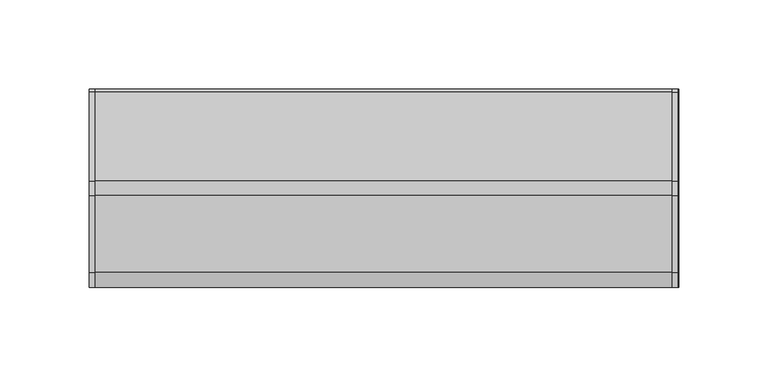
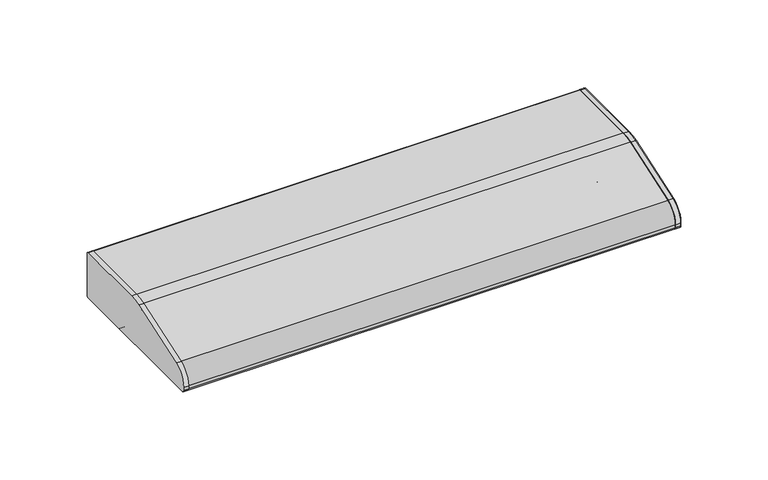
"""IFC4 building model written with IfcOpenShell, lengths in millimetres: light fixture geometry, HermanMiller_SupplementalProducts_G6136_UtilityTaskLight : AO Etho Canvas 24W."""

import ifcopenshell
import ifcopenshell.guid

model = None  # the IFC model being written
_history = None  # IfcOwnerHistory: only IFC2X3 demands one
_inside = {}  # id of a spatial element -> (the spatial element, [elements in it])
_under = {}  # id of a project, library or spatial element -> (it, [spatial elements below it])
_declared = {}  # id of a project -> (the project, [libraries it declares])
_typed = {}  # id of a type object -> (the type object, [elements of that type])
_made_of = {}  # id of a material, layer set ... -> (it, [elements and type objects made of it])


def new_model(schema):
    """Start an empty IFC model of exactly this schema.

    Asked for "IFC4X3", IfcOpenShell would pick the latest addendum, in which some entities
    have other attributes; the version numbers below select the first issue.
    IFC2X3 requires an IfcOwnerHistory on every rooted entity: one is made here for all.
    """
    global model, _history
    if schema == "IFC4X3":
        model = ifcopenshell.file(schema_version=(4, 3, 0, 0))
    else:
        model = ifcopenshell.file(schema=schema)
    _inside.clear()
    _under.clear()
    _declared.clear()
    _typed.clear()
    _made_of.clear()
    _history = None
    if model.schema == "IFC2X3":
        org = make("IfcOrganization", Name="unknown")
        user = make(
            "IfcPersonAndOrganization",
            ThePerson=make("IfcPerson", FamilyName="unknown"),
            TheOrganization=org,
        )
        app = make(
            "IfcApplication",
            ApplicationDeveloper=org,
            Version="unknown",
            ApplicationFullName="unknown",
            ApplicationIdentifier="unknown",
        )
        _history = make(
            "IfcOwnerHistory",
            OwningUser=user,
            OwningApplication=app,
            ChangeAction="ADDED",
            CreationDate=0,
        )
    return model


def make(cls, **values):
    """One entity of the class cls with the attributes given. An attribute that is None is left unset."""
    return model.create_entity(
        cls, **{name: value for name, value in values.items() if value is not None}
    )


def rooted(cls, **values):
    """An entity with a GlobalId (a new one), such as an element, a storey or a relation."""
    return make(cls, GlobalId=ifcopenshell.guid.new(), OwnerHistory=_history, **values)


def si_unit(unit_type, name, prefix=None):
    """IfcSIUnit, for example si_unit("LENGTHUNIT", "METRE", prefix="MILLI")."""
    return make("IfcSIUnit", UnitType=unit_type, Prefix=prefix, Name=name)


def assignment(units):
    """IfcUnitAssignment: the units of a project."""
    return None if units is None else make("IfcUnitAssignment", Units=units)


def point(xyz):
    """IfcCartesianPoint."""
    return None if xyz is None else make("IfcCartesianPoint", Coordinates=xyz)


def direction(xyz):
    """IfcDirection."""
    return None if xyz is None else make("IfcDirection", DirectionRatios=xyz)


def frame(location, z_axis=None, x_axis=None):
    """IfcAxis2Placement3D, a coordinate frame: its origin and axes. An axis left out is left unset."""
    return make(
        "IfcAxis2Placement3D",
        Location=point(location),
        Axis=direction(z_axis),
        RefDirection=direction(x_axis),
    )


def frame_2d(location, x_axis=None):
    """IfcAxis2Placement2D, a coordinate frame in the plane: its origin and x axis."""
    return make(
        "IfcAxis2Placement2D", Location=point(location), RefDirection=direction(x_axis)
    )


def origin():
    """The frame at (0, 0, 0) with its axes left unset."""
    return frame((0.0, 0.0, 0.0))


def place(relative_to, where):
    """IfcLocalPlacement: puts the frame where relative to a parent placement (None: the world)."""
    return make(
        "IfcLocalPlacement", PlacementRelTo=relative_to, RelativePlacement=where
    )


def context(
    kind, dimensions, precision=None, world=None, true_north=None, identifier=None
):
    """IfcGeometricRepresentationContext, for example the 3D "Model" context."""
    return make(
        "IfcGeometricRepresentationContext",
        ContextIdentifier=identifier,
        ContextType=kind,
        CoordinateSpaceDimension=dimensions,
        Precision=precision,
        WorldCoordinateSystem=world,
        TrueNorth=true_north,
    )


def project(units=None, contexts=None):
    """IfcProject with its units and contexts."""
    return rooted(
        "IfcProject",
        Name="project",
        RepresentationContexts=contexts,
        UnitsInContext=assignment(units),
    )


def spatial(cls, under=None, at=None, **own):
    """A site, building, storey or space (cls), placed at a placement, below another one or the project."""
    s = rooted(cls, ObjectPlacement=at, **own)
    if under is not None:
        _under.setdefault(under.id(), (under, []))[1].append(s)
    return s


def polyline(points):
    """IfcPolyline through the points."""
    return make("IfcPolyline", Points=[point(p) for p in points])


def circle_curve(where, radius):
    """IfcCircle in the frame where."""
    return make("IfcCircle", Position=where, Radius=radius)


def trimmed(basis, trim1, trim2, sense, master):
    """IfcTrimmedCurve: the piece of a basis curve between two trims."""
    return make(
        "IfcTrimmedCurve",
        BasisCurve=basis,
        Trim1=trim1,
        Trim2=trim2,
        SenseAgreement=sense,
        MasterRepresentation=master,
    )


def segment(curve, same_sense, transition):
    """IfcCompositeCurveSegment."""
    return make(
        "IfcCompositeCurveSegment",
        Transition=transition,
        SameSense=same_sense,
        ParentCurve=curve,
    )


def composite_curve(segments, self_intersect=None):
    """IfcCompositeCurve: segments joined end to end."""
    return make("IfcCompositeCurve", Segments=segments, SelfIntersect=self_intersect)


def outline(outer, holes=None, kind="AREA"):
    """IfcArbitraryClosedProfileDef: a profile drawn as a closed curve; with holes, ...WithVoids."""
    if holes is None:
        return make("IfcArbitraryClosedProfileDef", ProfileType=kind, OuterCurve=outer)
    return make(
        "IfcArbitraryProfileDefWithVoids",
        ProfileType=kind,
        OuterCurve=outer,
        InnerCurves=holes,
    )


def extrude(swept, where, along, depth):
    """IfcExtrudedAreaSolid: the profile swept, set in the frame where, extruded along a direction by depth."""
    return make(
        "IfcExtrudedAreaSolid",
        SweptArea=swept,
        Position=where,
        ExtrudedDirection=direction(along),
        Depth=depth,
    )


def shape(context_of_items, identifier, shape_type, items):
    """IfcShapeRepresentation: the items that make up one representation, for example the "Body"."""
    return make(
        "IfcShapeRepresentation",
        ContextOfItems=context_of_items,
        RepresentationIdentifier=identifier,
        RepresentationType=shape_type,
        Items=items,
    )


def source(mapping_origin, context_of_items, identifier, shape_type, items):
    """IfcRepresentationMap: a shape defined once, which mapped items show again and again."""
    return make(
        "IfcRepresentationMap",
        MappingOrigin=mapping_origin,
        MappedRepresentation=shape(context_of_items, identifier, shape_type, items),
    )


def transform(
    local_origin,
    x_axis=None,
    y_axis=None,
    z_axis=None,
    scale=None,
    scale2=None,
    scale3=None,
    uniform=True,
):
    """IfcCartesianTransformationOperator3D, or its non-uniform kind. x_axis, y_axis, z_axis: its Axis1, 2, 3."""
    if uniform:
        return make(
            "IfcCartesianTransformationOperator3D",
            Axis1=direction(x_axis),
            Axis2=direction(y_axis),
            LocalOrigin=point(local_origin),
            Scale=scale,
            Axis3=direction(z_axis),
        )
    return make(
        "IfcCartesianTransformationOperator3DnonUniform",
        Axis1=direction(x_axis),
        Axis2=direction(y_axis),
        LocalOrigin=point(local_origin),
        Scale=scale,
        Axis3=direction(z_axis),
        Scale2=scale2,
        Scale3=scale3,
    )


def mapped(mapping_source, mapping_target):
    """IfcMappedItem: shows the shape of a source again, moved by a transform."""
    return make(
        "IfcMappedItem", MappingSource=mapping_source, MappingTarget=mapping_target
    )


def made_of(thing, what):
    """Note that an element or type object is made of a material, layer set ...; save() writes the relation."""
    if what is not None:
        _made_of.setdefault(what.id(), (what, []))[1].append(thing)
    return thing


def element(
    cls,
    number,
    at=None,
    inside=None,
    cuts=None,
    type_object=None,
    material=None,
    context=None,
    identifier="Body",
    shape_type=None,
    held_by="IfcProductDefinitionShape",
    body=None,
    shapes=None,
    **own,
):
    """One element of the class cls, such as IfcWall. Its Tag is "e" and its number.

    at: its placement. inside: the storey or other place that contains it. cuts: it is an
    opening in that element (IfcRelVoidsElement). A single representation is given by context,
    identifier, shape_type and body (its items); several are given by shapes. held_by: the class
    of the entity that holds the representations. save() writes the other relations.
    """
    e = rooted(cls, Tag="e%d" % number, ObjectPlacement=at, **own)
    if body is not None:
        shapes = [shape(context, identifier, shape_type, body)]
    if shapes is not None:
        e.Representation = make(held_by, Representations=shapes)
    if inside is not None:
        _inside.setdefault(inside.id(), (inside, []))[1].append(e)
    if cuts is not None:
        rooted(
            "IfcRelVoidsElement", RelatingBuildingElement=cuts, RelatedOpeningElement=e
        )
    if type_object is not None:
        _typed.setdefault(type_object.id(), (type_object, []))[1].append(e)
    return made_of(e, material)


def aggregate(whole, parts):
    """IfcRelAggregates: a whole, such as a stair, and the parts it consists of."""
    return rooted("IfcRelAggregates", RelatingObject=whole, RelatedObjects=parts)


def save(model, path):
    """Write the relations noted so far, then the file.

    IfcRelAggregates (storeys below a building ...), IfcRelContainedInSpatialStructure (elements
    in a storey), IfcRelDefinesByType, IfcRelAssociatesMaterial and IfcRelDeclares: one each for
    every whole, place, type object, material and project.
    """
    for whole, parts in _under.values():
        aggregate(whole, parts)
    for where, things in _inside.values():
        rooted(
            "IfcRelContainedInSpatialStructure",
            RelatedElements=things,
            RelatingStructure=where,
        )
    for kind, things in _typed.values():
        rooted("IfcRelDefinesByType", RelatedObjects=things, RelatingType=kind)
    for what, things in _made_of.values():
        rooted("IfcRelAssociatesMaterial", RelatedObjects=things, RelatingMaterial=what)
    for by, libraries in _declared.values():
        rooted("IfcRelDeclares", RelatingContext=by, RelatedDefinitions=libraries)
    model.write(path)


def light_fixture_23ee1715(model_context):
    return source(origin(), model_context, "Body", "SweptSolid", [
        extrude(outline(composite_curve([segment(polyline([(53.975, 1257.3), (-53.975, 1257.3)]), True, "CONTINUOUS"), segment(trimmed(circle_curve(frame_2d((-53.975, 1258.8875)), 1.5875), [point((-53.975, 1257.3))], [point((-55.5625, 1258.8875))], False, "CARTESIAN"), True, "CONTINUOUS"), segment(polyline([(-55.5625, 1258.8875), (-55.5625, 1260.9285714)]), True, "CONTINUOUS"), segment(trimmed(circle_curve(frame_2d((-42.8625, 1260.9285714)), 12.7), [point((-55.5625, 1260.9285714))], [point((-46.9814189, 1272.9420849))], False, "CARTESIAN"), True, "CONTINUOUS"), segment(polyline([(-46.9814189, 1272.9420849), (-4.0045045, 1287.677027)]), True, "CONTINUOUS"), segment(trimmed(circle_curve(frame_2d((4.2333333, 1263.65)), 25.4), [point((-4.0045045, 1287.677027))], [point((4.2333333, 1289.05))], False, "CARTESIAN"), True, "CONTINUOUS"), segment(polyline([(4.2333333, 1289.05), (53.975, 1289.05)]), True, "CONTINUOUS"), segment(trimmed(circle_curve(frame_2d((53.975, 1287.4625)), 1.5875), [point((53.975, 1289.05))], [point((55.5625, 1287.4625))], False, "CARTESIAN"), True, "CONTINUOUS"), segment(polyline([(55.5625, 1287.4625), (55.5625, 1258.8875)]), True, "CONTINUOUS"), segment(trimmed(circle_curve(frame_2d((53.975, 1258.8875)), 1.5875), [point((55.5625, 1258.8875))], [point((53.975, 1257.3))], False, "CARTESIAN"), True, "CONTINUOUS")], self_intersect=False)), frame((161.544, 0.0, 0.0), z_axis=(1.0, 0.0, 0.0), x_axis=(0.0, 1.0, 0.0)), (0.0, 0.0, 1.0), 3.175),
        extrude(outline(composite_curve([segment(trimmed(circle_curve(frame_2d((53.975, 1287.4625)), 1.5875), [point((53.975, 1289.05))], [point((55.5625, 1287.4625))], False, "CARTESIAN"), True, "CONTINUOUS"), segment(polyline([(55.5625, 1287.4625), (55.5625, 1258.8875)]), True, "CONTINUOUS"), segment(trimmed(circle_curve(frame_2d((53.975, 1258.8875)), 1.5875), [point((55.5625, 1258.8875))], [point((53.975, 1257.3))], False, "CARTESIAN"), True, "CONTINUOUS"), segment(polyline([(53.975, 1257.3), (-53.975, 1257.3)]), True, "CONTINUOUS"), segment(trimmed(circle_curve(frame_2d((-53.975, 1258.8875)), 1.5875), [point((-53.975, 1257.3))], [point((-55.5625, 1258.8875))], False, "CARTESIAN"), True, "CONTINUOUS"), segment(polyline([(-55.5625, 1258.8875), (-55.5625, 1260.9285714)]), True, "CONTINUOUS"), segment(trimmed(circle_curve(frame_2d((-42.8625, 1260.9285714)), 12.7), [point((-55.5625, 1260.9285714))], [point((-46.9814189, 1272.9420849))], False, "CARTESIAN"), True, "CONTINUOUS"), segment(polyline([(-46.9814189, 1272.9420849), (-4.0045045, 1287.677027)]), True, "CONTINUOUS"), segment(trimmed(circle_curve(frame_2d((4.2333333, 1263.65)), 25.4), [point((-4.0045045, 1287.677027))], [point((4.2333333, 1289.05))], False, "CARTESIAN"), True, "CONTINUOUS"), segment(polyline([(4.2333333, 1289.05), (53.975, 1289.05)]), True, "CONTINUOUS")], self_intersect=False)), frame((-164.719, 0.0, 0.0), z_axis=(1.0, 0.0, 0.0), x_axis=(0.0, 1.0, 0.0)), (0.0, 0.0, 1.0), 3.175),
        extrude(outline(composite_curve([segment(polyline([(55.5625, 1287.4625), (55.5625, 1258.8875)]), True, "CONTINUOUS"), segment(trimmed(circle_curve(frame_2d((53.975, 1258.8875)), 1.5875), [point((55.5625, 1258.8875))], [point((53.975, 1257.3))], False, "CARTESIAN"), True, "CONTINUOUS"), segment(polyline([(53.975, 1257.3), (19.05, 1257.3)]), True, "CONTINUOUS"), segment(trimmed(circle_curve(frame_2d((19.05, 1258.8875)), 1.5875), [point((19.05, 1257.3))], [point((17.4625, 1258.8875))], False, "CARTESIAN"), True, "CONTINUOUS"), segment(polyline([(17.4625, 1258.8875), (17.4625, 1287.4625), (4.4979167, 1287.4625)]), True, "CONTINUOUS"), segment(trimmed(circle_curve(frame_2d((4.4979167, 1262.0625)), 25.4), [point((4.4979167, 1287.4625))], [point((-3.7399212, 1286.089527))], True, "CARTESIAN"), True, "CONTINUOUS"), segment(polyline([(-3.7399212, 1286.089527), (-37.4564189, 1274.5295849)]), True, "CONTINUOUS"), segment(trimmed(circle_curve(frame_2d((-33.3375, 1262.5160714)), 12.7), [point((-37.4564189, 1274.5295849))], [point((-46.0375, 1262.5160714))], True, "CARTESIAN"), True, "CONTINUOUS"), segment(polyline([(-46.0375, 1262.5160714), (-46.0375, 1258.8875)]), True, "CONTINUOUS"), segment(trimmed(circle_curve(frame_2d((-47.625, 1258.8875)), 1.5875), [point((-46.0375, 1258.8875))], [point((-47.625, 1257.3))], False, "CARTESIAN"), True, "CONTINUOUS"), segment(polyline([(-47.625, 1257.3), (-53.975, 1257.3)]), True, "CONTINUOUS"), segment(trimmed(circle_curve(frame_2d((-53.975, 1258.8875)), 1.5875), [point((-53.975, 1257.3))], [point((-55.5625, 1258.8875))], False, "CARTESIAN"), True, "CONTINUOUS"), segment(polyline([(-55.5625, 1258.8875), (-55.5625, 1260.9285714)]), True, "CONTINUOUS"), segment(trimmed(circle_curve(frame_2d((-42.8625, 1260.9285714)), 12.7), [point((-55.5625, 1260.9285714))], [point((-46.9814189, 1272.9420849))], False, "CARTESIAN"), True, "CONTINUOUS"), segment(polyline([(-46.9814189, 1272.9420849), (-4.0045045, 1287.677027)]), True, "CONTINUOUS"), segment(trimmed(circle_curve(frame_2d((4.2333333, 1263.65)), 25.4), [point((-4.0045045, 1287.677027))], [point((4.2333333, 1289.05))], False, "CARTESIAN"), True, "CONTINUOUS"), segment(polyline([(4.2333333, 1289.05), (53.975, 1289.05)]), True, "CONTINUOUS"), segment(trimmed(circle_curve(frame_2d((53.975, 1287.4625)), 1.5875), [point((53.975, 1289.05))], [point((55.5625, 1287.4625))], False, "CARTESIAN"), True, "CONTINUOUS")], self_intersect=False)), frame((-164.719, 0.0, 0.0), z_axis=(1.0, 0.0, 0.0), x_axis=(0.0, 1.0, 0.0)), (0.0, 0.0, 1.0), 329.9040011),
        extrude(outline(composite_curve([segment(trimmed(circle_curve(frame_2d((1.5875, 1274.7625)), 9.525), [point((-7.9375, 1274.7625))], [point((11.1125, 1274.7625))], False, "CARTESIAN"), True, "CONTINUOUS"), segment(trimmed(circle_curve(frame_2d((1.5875, 1274.7625)), 9.525), [point((11.1125, 1274.7625))], [point((-7.9375, 1274.7625))], False, "CARTESIAN"), True, "CONTINUOUS")], self_intersect=False)), frame((139.319, 0.0, 0.0), z_axis=(1.0, 0.0, 0.0), x_axis=(0.0, 1.0, 0.0)), (0.0, 0.0, 1.0), 12.7),
        extrude(outline(composite_curve([segment(trimmed(circle_curve(frame_2d((1.5875, 1274.7625)), 9.525), [point((-7.9375, 1274.7625))], [point((11.1125, 1274.7625))], False, "CARTESIAN"), True, "CONTINUOUS"), segment(trimmed(circle_curve(frame_2d((1.5875, 1274.7625)), 9.525), [point((11.1125, 1274.7625))], [point((-7.9375, 1274.7625))], False, "CARTESIAN"), True, "CONTINUOUS")], self_intersect=False)), frame((-152.019, 0.0, 0.0), z_axis=(1.0, 0.0, 0.0), x_axis=(0.0, 1.0, 0.0)), (0.0, 0.0, 1.0), 12.7),
        extrude(outline(composite_curve([segment(trimmed(circle_curve(frame_2d((1.5875, 1274.7625)), 9.525), [point((-7.9375, 1274.7625))], [point((11.1125, 1274.7625))], False, "CARTESIAN"), True, "CONTINUOUS"), segment(trimmed(circle_curve(frame_2d((1.5875, 1274.7625)), 9.525), [point((11.1125, 1274.7625))], [point((-7.9375, 1274.7625))], False, "CARTESIAN"), True, "CONTINUOUS")], self_intersect=False)), frame((-139.319, 0.0, 0.0), z_axis=(1.0, 0.0, 0.0), x_axis=(0.0, 1.0, 0.0)), (0.0, 0.0, 1.0), 278.638),
        extrude(outline(composite_curve([segment(polyline([(17.4625, 1260.475), (-46.0375, 1260.475), (-46.0375, 1262.5160714)]), True, "CONTINUOUS"), segment(trimmed(circle_curve(frame_2d((-33.3375, 1262.5160714)), 12.7), [point((-46.0375, 1262.5160714))], [point((-37.4564189, 1274.5295849))], False, "CARTESIAN"), True, "CONTINUOUS"), segment(polyline([(-37.4564189, 1274.5295849), (-3.7399212, 1286.089527)]), True, "CONTINUOUS"), segment(trimmed(circle_curve(frame_2d((4.4979167, 1262.0625)), 25.4), [point((-3.7399212, 1286.089527))], [point((4.4979167, 1287.4625))], False, "CARTESIAN"), True, "CONTINUOUS"), segment(polyline([(4.4979167, 1287.4625), (17.4625, 1287.4625), (17.4625, 1260.475)]), True, "CONTINUOUS")], self_intersect=False)), frame((152.019, 0.0, 0.0), z_axis=(1.0, 0.0, 0.0), x_axis=(0.0, 1.0, 0.0)), (0.0, 0.0, 1.0), 9.525),
        extrude(outline(composite_curve([segment(polyline([(17.4625, 1260.475), (-46.0375, 1260.475), (-46.0375, 1262.5160714)]), True, "CONTINUOUS"), segment(trimmed(circle_curve(frame_2d((-33.3375, 1262.5160714)), 12.7), [point((-46.0375, 1262.5160714))], [point((-37.4564189, 1274.5295849))], False, "CARTESIAN"), True, "CONTINUOUS"), segment(polyline([(-37.4564189, 1274.5295849), (-3.7399212, 1286.089527)]), True, "CONTINUOUS"), segment(trimmed(circle_curve(frame_2d((4.4979167, 1262.0625)), 25.4), [point((-3.7399212, 1286.089527))], [point((4.4979167, 1287.4625))], False, "CARTESIAN"), True, "CONTINUOUS"), segment(polyline([(4.4979167, 1287.4625), (17.4625, 1287.4625), (17.4625, 1260.475)]), True, "CONTINUOUS")], self_intersect=False)), frame((-161.544, 0.0, 0.0), z_axis=(1.0, 0.0, 0.0), x_axis=(0.0, 1.0, 0.0)), (0.0, 0.0, 1.0), 9.525),
    ])


if __name__ == "__main__":
    model = new_model("IFC4")
    model_context = context("Model", 3, world=origin())
    ifc_project = project(units=[si_unit("LENGTHUNIT", "METRE", prefix="MILLI")], contexts=[model_context])
    site = spatial("IfcSite", under=ifc_project)
    building = spatial("IfcBuilding", under=site)
    placement = place(None, origin())
    light_fixture_shape = light_fixture_23ee1715(model_context)
    element("IfcLightFixture", 1, ObjectType="HermanMiller_SupplementalProducts_G6136_UtilityTaskLight : AO Etho Canvas 24W", at=placement, inside=building, context=model_context, shape_type="MappedRepresentation", body=[
        mapped(light_fixture_shape, transform((0.0, 0.0, 0.0), x_axis=(1.0, 0.0, 0.0), y_axis=(0.0, 1.0, 0.0), z_axis=(0.0, 0.0, 1.0))),
    ])
    save(model, "model.ifc")
